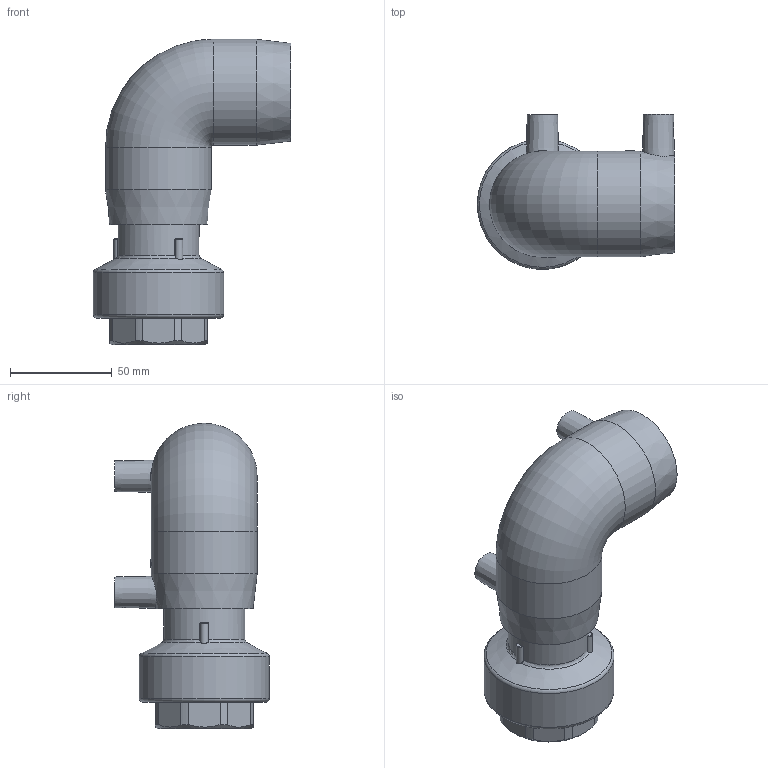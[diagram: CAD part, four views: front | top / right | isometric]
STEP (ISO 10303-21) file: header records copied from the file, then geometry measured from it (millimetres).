
FILE_DESCRIPTION(/* description */ ('Unknown'),/* implementation_level */ '2;1');
FILE_NAME(/* name */ 'GE9TFP040C',/* time_stamp */ '2021-03-02T14:52:32+01:00',/* author */ ('Unknown'),/* organization */ ('Unknown'),/* preprocessor_version */ 'ST-DEVELOPER v16.7',/* originating_system */ 'Solid Edge',/* authorisation */ 'Unknown');
FILE_SCHEMA (('AUTOMOTIVE_DESIGN {1 0 10303 214 3 1 1}'));
Length unit declared in the file: millimetre
Products named in the file (5): GE9TFP040C; GE9P040C; RTOFP040C; Parte PE 040; IOF040C
Assembly tree (4 placements, depth 3):
  GE9TFP040C
    GE9P040C
    RTOFP040C
      Parte PE 040
      IOF040C
Bounding box: 97 x 76 x 150 mm (x, y, z)
Volume: 202300.7 mm3; surface area: 84073.3 mm2
Topology: 3 solids, 3 shells, 196 faces, 461 edges, 298 vertices
Faces by surface type: plane 108, cylinder 52, bspline 15, torus 13, cone 8
Full cylindrical faces by diameter (mm): 4 x4, 10 x2, 32.6 x1, 38 x3, 38.952 x1, 40 x3, 42 x2, 49 x4, 49.8 x2, 52 x2, 54 x8, 64 x1
Entity records: 6281 total; most frequent: CARTESIAN_POINT 1372, DIRECTION 922, ORIENTED_EDGE 810, EDGE_CURVE 405, AXIS2_PLACEMENT_3D 379, VERTEX_POINT 286, EDGE_LOOP 273, FACE_BOUND 273
